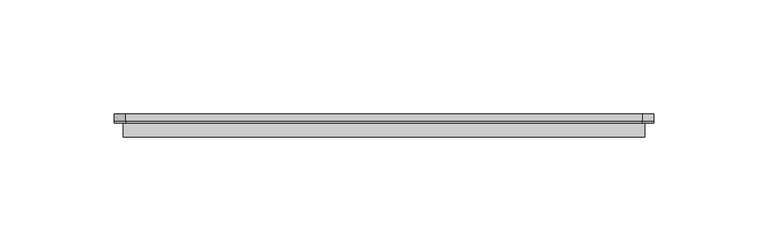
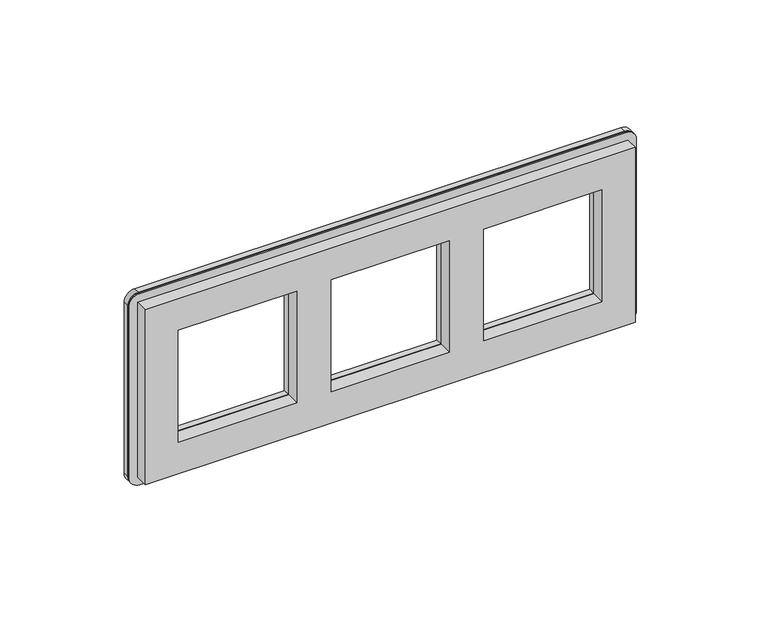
"""IFC4 building model written with IfcOpenShell, lengths in millimetres: proxy geometry, IEK_Brite_Рамка : x3_РУ-3-1-Бр металл алюм. RE."""

from ifc_helpers import new_model, si_unit, point, frame, frame_2d, origin, place, context, project, spatial, polyline, circle_curve, trimmed, segment, composite_curve, outline, extrude, source, transform, mapped, element, save
from ifc_brep_helpers import plane_surface, cylinder_surface, advanced_brep


def electrical_fixtures_76136ebe(model_context):
    return source(origin(), model_context, "Body", "SolidModel", [
        extrude(outline(composite_curve([segment(trimmed(circle_curve(frame_2d((42.0, -184.0)), 5.0), [point((47.0, -184.0))], [point((42.0, -189.0))], False, "CARTESIAN"), True, "CONTINUOUS"), segment(polyline([(42.0, -189.0), (-42.0, -189.0)]), True, "CONTINUOUS"), segment(trimmed(circle_curve(frame_2d((-42.0, -184.0)), 5.0), [point((-42.0, -189.0))], [point((-47.0, -184.0))], False, "CARTESIAN"), True, "CONTINUOUS"), segment(polyline([(-47.0, -184.0), (-47.0, 42.0)]), True, "CONTINUOUS"), segment(trimmed(circle_curve(frame_2d((-42.0, 42.0)), 5.0), [point((-47.0, 42.0))], [point((-42.0, 47.0))], False, "CARTESIAN"), True, "CONTINUOUS"), segment(polyline([(-42.0, 47.0), (42.0, 47.0)]), True, "CONTINUOUS"), segment(trimmed(circle_curve(frame_2d((42.0, 42.0)), 5.0), [point((42.0, 47.0))], [point((47.0, 42.0))], False, "CARTESIAN"), True, "CONTINUOUS"), segment(polyline([(47.0, 42.0), (47.0, -184.0)]), True, "CONTINUOUS")], self_intersect=False), holes=[polyline([(-27.5, -169.5), (27.5, -169.5), (27.5, -114.5), (-27.5, -114.5), (-27.5, -169.5)]), polyline([(-27.5, -98.5), (27.5, -98.5), (27.5, -43.5), (-27.5, -43.5), (-27.5, -98.5)]), polyline([(-27.5, -27.5), (27.5, -27.5), (27.5, 27.5), (-27.5, 27.5), (-27.5, -27.5)])]), frame((0.0, 7.0, 0.0), z_axis=(0.0, 1.0, 0.0), x_axis=(0.0, 0.0, 1.0)), (0.0, 0.0, 1.0), 3.0),
        advanced_brep(
        [(-184.0, 7.0, 47.0), (42.0, 7.0, 47.0), (47.0, 7.0, 42.0), (47.0, 7.0, -42.0), (42.0, 7.0, -47.0), (-184.0, 7.0, -47.0), (-189.0, 7.0, -42.0), (-189.0, 7.0, 42.0), (-169.5, 7.0, 27.5), (-169.5, 7.0, -27.5), (-114.5, 7.0, -27.5), (-114.5, 7.0, 27.5), (-98.5, 7.0, 27.5), (-98.5, 7.0, -27.5), (-43.5, 7.0, -27.5), (-43.5, 7.0, 27.5), (-27.5, 7.0, 27.5), (-27.5, 7.0, -27.5), (27.5, 7.0, -27.5), (27.5, 7.0, 27.5), (-185.0, 0.0, 43.0), (-185.0, 0.0, -43.0), (43.0, 0.0, -43.0), (43.0, 0.0, 43.0), (-169.5, 0.0, -27.5), (-169.5, 0.0, 27.5), (-114.5, 0.0, 27.5), (-114.5, 0.0, -27.5), (-98.5, 0.0, -27.5), (-98.5, 0.0, 27.5), (-43.5, 0.0, 27.5), (-43.5, 0.0, -27.5), (-27.5, 0.0, -27.5), (-27.5, 0.0, 27.5), (27.5, 0.0, 27.5), (27.5, 0.0, -27.5), (-185.0, 6.0, 43.0), (-185.0, 6.0, -43.0), (43.0, 6.0, -43.0), (43.0, 6.0, 43.0), (-184.0, 6.0, 47.0), (-189.0, 6.0, 42.0), (-189.0, 6.0, -42.0), (-184.0, 6.0, -47.0), (42.0, 6.0, -47.0), (47.0, 6.0, -42.0), (47.0, 6.0, 42.0), (42.0, 6.0, 47.0)],
        [
            (0, 1),
            (1, 2, circle_curve(frame((42.0, 7.0, 42.0), z_axis=(0.0, 1.0, 0.0), x_axis=(1.0, 0.0, 0.0)), 5.0)),
            (2, 3),
            (3, 4, circle_curve(frame((42.0, 7.0, -42.0), z_axis=(0.0, 1.0, 0.0), x_axis=(1.0, 0.0, 0.0)), 5.0)),
            (4, 5),
            (5, 6, circle_curve(frame((-184.0, 7.0, -42.0), z_axis=(0.0, 1.0, 0.0), x_axis=(1.0, 0.0, 0.0)), 5.0)),
            (6, 7),
            (7, 0, circle_curve(frame((-184.0, 7.0, 42.0), z_axis=(0.0, 1.0, 0.0), x_axis=(1.0, 0.0, 0.0)), 5.0)),
            (8, 9),
            (9, 10),
            (10, 11),
            (11, 8),
            (12, 13),
            (13, 14),
            (14, 15),
            (15, 12),
            (16, 17),
            (17, 18),
            (18, 19),
            (19, 16),
            (20, 21),
            (21, 22),
            (22, 23),
            (23, 20),
            (24, 25),
            (25, 26),
            (26, 27),
            (27, 24),
            (28, 29),
            (29, 30),
            (30, 31),
            (31, 28),
            (32, 33),
            (33, 34),
            (34, 35),
            (35, 32),
            (20, 36),
            (36, 37),
            (37, 21),
            (37, 38),
            (38, 22),
            (38, 39),
            (39, 23),
            (39, 36),
            (40, 41, circle_curve(frame((-184.0, 6.0, 42.0), z_axis=(0.0, -1.0, 0.0), x_axis=(1.0, 0.0, 0.0)), 5.0)),
            (41, 42),
            (42, 43, circle_curve(frame((-184.0, 6.0, -42.0), z_axis=(0.0, -1.0, 0.0), x_axis=(1.0, 0.0, 0.0)), 5.0)),
            (43, 44),
            (44, 45, circle_curve(frame((42.0, 6.0, -42.0), z_axis=(0.0, -1.0, 0.0), x_axis=(1.0, 0.0, 0.0)), 5.0)),
            (45, 46),
            (46, 47, circle_curve(frame((42.0, 6.0, 42.0), z_axis=(0.0, -1.0, 0.0), x_axis=(1.0, 0.0, 0.0)), 5.0)),
            (47, 40),
            (8, 25),
            (24, 9),
            (27, 10),
            (26, 11),
            (12, 29),
            (28, 13),
            (31, 14),
            (30, 15),
            (40, 0),
            (7, 41),
            (6, 42),
            (5, 43),
            (4, 44),
            (3, 45),
            (2, 46),
            (1, 47),
            (16, 33),
            (32, 17),
            (35, 18),
            (34, 19),
        ],
        [
            plane_surface(frame((-185.0, 7.0, 43.0), z_axis=(0.0, 1.0, 0.0), x_axis=(0.0, 0.0, 1.0))),
            plane_surface(frame((-185.0, 0.0, 43.0), z_axis=(0.0, -1.0, 0.0), x_axis=(0.0, 0.0, -1.0))),
            plane_surface(frame((-185.0, 0.0, 43.0), z_axis=(-1.0, 0.0, 0.0), x_axis=(0.0, 1.0, 0.0))),
            plane_surface(frame((-185.0, 0.0, -43.0), z_axis=(0.0, 0.0, -1.0), x_axis=(0.0, 1.0, 0.0))),
            plane_surface(frame((43.0, 0.0, -43.0), z_axis=(1.0, 0.0, 0.0), x_axis=(0.0, 1.0, 0.0))),
            plane_surface(frame((43.0, 0.0, 43.0), z_axis=(0.0, 0.0, 1.0), x_axis=(0.0, 1.0, 0.0))),
            plane_surface(frame((-179.0, 6.0, 42.0), z_axis=(0.0, -1.0, 0.0), x_axis=(0.0, 0.0, 1.0))),
            plane_surface(frame((-169.5, 0.0, 27.5), z_axis=(1.0, 0.0, 0.0), x_axis=(0.0, 1.0, 0.0))),
            plane_surface(frame((-169.5, 0.0, -27.5), z_axis=(0.0, 0.0, 1.0), x_axis=(0.0, 1.0, 0.0))),
            plane_surface(frame((-114.5, 0.0, -27.5), z_axis=(-1.0, 0.0, 0.0), x_axis=(0.0, 1.0, 0.0))),
            plane_surface(frame((-114.5, 0.0, 27.5), z_axis=(0.0, 0.0, -1.0), x_axis=(0.0, 1.0, 0.0))),
            plane_surface(frame((-98.5, 0.0, 27.5), z_axis=(1.0, 0.0, 0.0), x_axis=(0.0, 1.0, 0.0))),
            plane_surface(frame((-98.5, 0.0, -27.5), z_axis=(0.0, 0.0, 1.0), x_axis=(0.0, 1.0, 0.0))),
            plane_surface(frame((-43.5, 0.0, -27.5), z_axis=(-1.0, 0.0, 0.0), x_axis=(0.0, 1.0, 0.0))),
            plane_surface(frame((-43.5, 0.0, 27.5), z_axis=(0.0, 0.0, -1.0), x_axis=(0.0, 1.0, 0.0))),
            cylinder_surface(frame((-184.0, 7.0, 42.0), z_axis=(0.0, -1.0, 0.0), x_axis=(1.0, 0.0, 0.0)), 5.0),
            plane_surface(frame((-189.0, 6.0, 42.0), z_axis=(-1.0, 0.0, 0.0), x_axis=(0.0, 1.0, 0.0))),
            cylinder_surface(frame((-184.0, 7.0, -42.0), z_axis=(0.0, -1.0, 0.0), x_axis=(1.0, 0.0, 0.0)), 5.0),
            plane_surface(frame((-184.0, 6.0, -47.0), z_axis=(0.0, 0.0, -1.0), x_axis=(0.0, 1.0, 0.0))),
            cylinder_surface(frame((42.0, 7.0, -42.0), z_axis=(0.0, -1.0, 0.0), x_axis=(1.0, 0.0, 0.0)), 5.0),
            plane_surface(frame((47.0, 6.0, -42.0), z_axis=(1.0, 0.0, 0.0), x_axis=(0.0, 1.0, 0.0))),
            cylinder_surface(frame((42.0, 7.0, 42.0), z_axis=(0.0, -1.0, 0.0), x_axis=(1.0, 0.0, 0.0)), 5.0),
            plane_surface(frame((42.0, 6.0, 47.0), z_axis=(0.0, 0.0, 1.0), x_axis=(0.0, 1.0, 0.0))),
            plane_surface(frame((-27.5, 0.0, 27.5), z_axis=(1.0, 0.0, 0.0), x_axis=(0.0, 1.0, 0.0))),
            plane_surface(frame((-27.5, 0.0, -27.5), z_axis=(0.0, 0.0, 1.0), x_axis=(0.0, 1.0, 0.0))),
            plane_surface(frame((27.5, 0.0, -27.5), z_axis=(-1.0, 0.0, 0.0), x_axis=(0.0, 1.0, 0.0))),
            plane_surface(frame((27.5, 0.0, 27.5), z_axis=(0.0, 0.0, -1.0), x_axis=(0.0, 1.0, 0.0))),
        ],
        [
            (0, [[1, 2, 3, 4, 5, 6, 7, 8], [9, 10, 11, 12], [13, 14, 15, 16], [17, 18, 19, 20]]),
            (1, [[21, 22, 23, 24], [25, 26, 27, 28], [29, 30, 31, 32], [33, 34, 35, 36]]),
            (2, [[-21, 37, 38, 39]]),
            (3, [[-22, -39, 40, 41]]),
            (4, [[-23, -41, 42, 43]]),
            (5, [[-24, -43, 44, -37]]),
            (6, [[45, 46, 47, 48, 49, 50, 51, 52], [-38, -44, -42, -40]]),
            (7, [[53, -25, 54, -9]]),
            (8, [[-54, -28, 55, -10]]),
            (9, [[-55, -27, 56, -11]]),
            (10, [[-53, -12, -56, -26]]),
            (11, [[57, -29, 58, -13]]),
            (12, [[-58, -32, 59, -14]]),
            (13, [[-59, -31, 60, -15]]),
            (14, [[-57, -16, -60, -30]]),
            (15, [[-45, 61, -8, 62]]),
            (16, [[-46, -62, -7, 63]]),
            (17, [[-47, -63, -6, 64]]),
            (18, [[-48, -64, -5, 65]]),
            (19, [[-49, -65, -4, 66]]),
            (20, [[-50, -66, -3, 67]]),
            (21, [[-51, -67, -2, 68]]),
            (22, [[-52, -68, -1, -61]]),
            (23, [[69, -33, 70, -17]]),
            (24, [[-70, -36, 71, -18]]),
            (25, [[-71, -35, 72, -19]]),
            (26, [[-69, -20, -72, -34]]),
        ],
    ),
    ])


if __name__ == "__main__":
    model = new_model("IFC4")
    model_context = context("Model", 3, world=origin())
    ifc_project = project(units=[si_unit("LENGTHUNIT", "METRE", prefix="MILLI")], contexts=[model_context])
    site = spatial("IfcSite", under=ifc_project)
    building = spatial("IfcBuilding", under=site)
    placement = place(None, origin())
    electrical_fixtures_shape = electrical_fixtures_76136ebe(model_context)
    element("IfcBuildingElementProxy", 1, Name="IEK_Brite_Рамка : x3_РУ-3-1-Бр металл алюм. RE", ObjectType="IEK_Brite_Рамка : x3_РУ-3-1-Бр металл алюм. RE", at=placement, inside=building, context=model_context, shape_type="MappedRepresentation", body=[
        mapped(electrical_fixtures_shape, transform((0.0, 0.0, 0.0), x_axis=(1.0, 0.0, 0.0), y_axis=(0.0, 1.0, 0.0), z_axis=(0.0, 0.0, 1.0))),
    ])
    save(model, "model.ifc")
